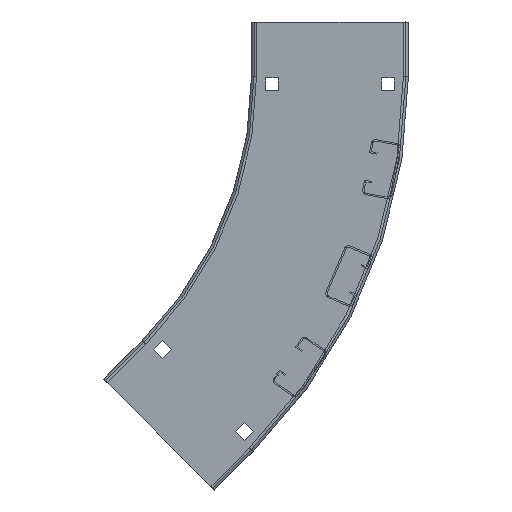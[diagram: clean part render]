
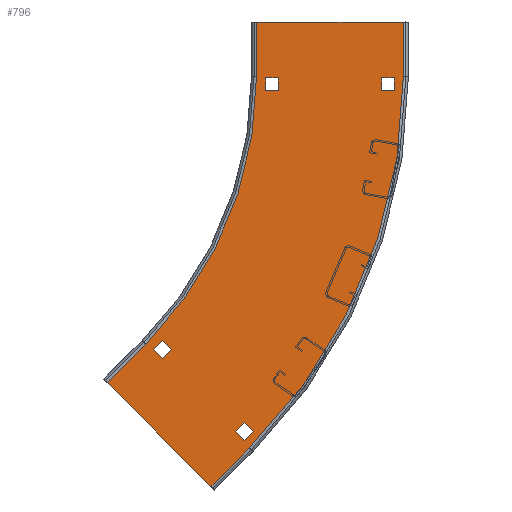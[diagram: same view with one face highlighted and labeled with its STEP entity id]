
A CAD part, left-side view. The second image highlights one B-rep face of the part: STEP entity #796.
In plain terms, the highlighted planar face has unit normal (-1, 0, 0).
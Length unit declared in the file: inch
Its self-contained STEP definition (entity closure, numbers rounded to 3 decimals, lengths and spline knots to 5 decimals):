
#1=DIRECTION('',(0.,-0.707,-0.707));
#2=VECTOR('',#1,4.718);
#3=CARTESIAN_POINT('',(0.,10.69853,13.1734));
#4=LINE('',#3,#2);
#5=DIRECTION('',(0.,1.,0.));
#6=VECTOR('',#5,4.718);
#7=CARTESIAN_POINT('',(0.,12.162,-1.75));
#8=LINE('',#7,#6);
#9=DIRECTION('',(0.,0.,-1.));
#10=VECTOR('',#9,0.41);
#11=CARTESIAN_POINT('',(0.,16.5885,0.455));
#12=LINE('',#11,#10);
#13=DIRECTION('',(0.,-1.,0.));
#14=VECTOR('',#13,0.41);
#15=CARTESIAN_POINT('',(0.,16.5885,0.045));
#16=LINE('',#15,#14);
#17=DIRECTION('',(0.,0.,1.));
#18=VECTOR('',#17,0.41);
#19=CARTESIAN_POINT('',(0.,16.1785,0.045));
#20=LINE('',#19,#18);
#21=DIRECTION('',(0.,1.,0.));
#22=VECTOR('',#21,0.41);
#23=CARTESIAN_POINT('',(0.,16.1785,0.455));
#24=LINE('',#23,#22);
#25=DIRECTION('',(0.,1.,0.));
#26=VECTOR('',#25,0.41);
#27=CARTESIAN_POINT('',(0.,12.4535,0.455));
#28=LINE('',#27,#26);
#29=DIRECTION('',(0.,0.,-1.));
#30=VECTOR('',#29,0.41);
#31=CARTESIAN_POINT('',(0.,12.8635,0.455));
#32=LINE('',#31,#30);
#33=DIRECTION('',(0.,-1.,0.));
#34=VECTOR('',#33,0.41);
#35=CARTESIAN_POINT('',(0.,12.8635,0.045));
#36=LINE('',#35,#34);
#37=DIRECTION('',(0.,0.,1.));
#38=VECTOR('',#37,0.41);
#39=CARTESIAN_POINT('',(0.,12.4535,0.045));
#40=LINE('',#39,#38);
#41=DIRECTION('',(0.,-0.707,-0.707));
#42=VECTOR('',#41,0.41);
#43=CARTESIAN_POINT('',(0.,9.41591,8.77245));
#44=LINE('',#43,#42);
#45=DIRECTION('',(0.,-0.707,0.707));
#46=VECTOR('',#45,0.41);
#47=CARTESIAN_POINT('',(0.,9.126,8.48253));
#48=LINE('',#47,#46);
#49=DIRECTION('',(0.,0.707,0.707));
#50=VECTOR('',#49,0.41);
#51=CARTESIAN_POINT('',(0.,8.83608,8.77245));
#52=LINE('',#51,#50);
#53=DIRECTION('',(0.,0.707,-0.707));
#54=VECTOR('',#53,0.41);
#55=CARTESIAN_POINT('',(0.,9.126,9.06236));
#56=LINE('',#55,#54);
#57=DIRECTION('',(0.,0.707,0.707));
#58=VECTOR('',#57,0.41);
#59=CARTESIAN_POINT('',(0.,11.47044,11.4068));
#60=LINE('',#59,#58);
#61=DIRECTION('',(0.,0.707,-0.707));
#62=VECTOR('',#61,0.41);
#63=CARTESIAN_POINT('',(0.,11.76036,11.69672));
#64=LINE('',#63,#62);
#65=DIRECTION('',(0.,-0.707,-0.707));
#66=VECTOR('',#65,0.41);
#67=CARTESIAN_POINT('',(0.,12.05027,11.4068));
#68=LINE('',#67,#66);
#69=DIRECTION('',(0.,-0.707,0.707));
#70=VECTOR('',#69,0.41);
#71=CARTESIAN_POINT('',(0.,11.76036,11.11689));
#72=LINE('',#71,#70);
#73=DIRECTION('',(0.,0.,1.));
#74=VECTOR('',#73,1.75);
#75=CARTESIAN_POINT('',(0.,16.88,-1.75));
#76=LINE('',#75,#74);
#114=DIRECTION('',(0.,0.,-1.));
#115=VECTOR('',#114,1.75);
#116=CARTESIAN_POINT('',(0.,12.162,0.));
#117=LINE('',#116,#115);
#123=CARTESIAN_POINT('',(0.,0.,0.));
#124=DIRECTION('',(-1.,0.,0.));
#125=DIRECTION('',(0.,0.707,0.707));
#126=AXIS2_PLACEMENT_3D('',#123,#124,#125);
#128=DIRECTION('',(0.,0.707,-0.707));
#129=VECTOR('',#128,1.75);
#130=CARTESIAN_POINT('',(0.,7.3624,9.83727));
#131=LINE('',#130,#129);
#169=DIRECTION('',(0.,-0.707,0.707));
#170=VECTOR('',#169,1.75);
#171=CARTESIAN_POINT('',(0.,11.93596,11.93596));
#172=LINE('',#171,#170);
#178=CARTESIAN_POINT('',(0.,0.,0.));
#179=DIRECTION('',(1.,0.,0.));
#180=DIRECTION('',(0.,1.,0.));
#181=AXIS2_PLACEMENT_3D('',#178,#179,#180);
#573=CARTESIAN_POINT('',(0.,7.3624,9.83727));
#575=VERTEX_POINT('',#573);
#579=CARTESIAN_POINT('',(0.,8.59983,8.59983));
#581=VERTEX_POINT('',#579);
#585=CARTESIAN_POINT('',(0.,12.162,0.));
#587=VERTEX_POINT('',#585);
#591=CARTESIAN_POINT('',(0.,12.162,-1.75));
#593=VERTEX_POINT('',#591);
#621=CARTESIAN_POINT('',(0.,16.88,-1.75));
#622=VERTEX_POINT('',#621);
#623=CARTESIAN_POINT('',(0.,10.69853,13.1734));
#624=VERTEX_POINT('',#623);
#629=CARTESIAN_POINT('',(0.,16.88,0.));
#631=VERTEX_POINT('',#629);
#635=CARTESIAN_POINT('',(0.,11.93596,11.93596));
#637=VERTEX_POINT('',#635);
#669=CARTESIAN_POINT('',(0.,16.5885,0.455));
#670=CARTESIAN_POINT('',(0.,16.5885,0.045));
#671=VERTEX_POINT('',#669);
#672=VERTEX_POINT('',#670);
#673=CARTESIAN_POINT('',(0.,16.1785,0.045));
#674=VERTEX_POINT('',#673);
#675=CARTESIAN_POINT('',(0.,16.1785,0.455));
#676=VERTEX_POINT('',#675);
#677=CARTESIAN_POINT('',(0.,12.4535,0.455));
#678=CARTESIAN_POINT('',(0.,12.8635,0.455));
#679=VERTEX_POINT('',#677);
#680=VERTEX_POINT('',#678);
#681=CARTESIAN_POINT('',(0.,12.8635,0.045));
#682=VERTEX_POINT('',#681);
#683=CARTESIAN_POINT('',(0.,12.4535,0.045));
#684=VERTEX_POINT('',#683);
#701=CARTESIAN_POINT('',(0.,9.41591,8.77245));
#702=CARTESIAN_POINT('',(0.,9.126,8.48253));
#703=VERTEX_POINT('',#701);
#704=VERTEX_POINT('',#702);
#705=CARTESIAN_POINT('',(0.,8.83608,8.77245));
#706=VERTEX_POINT('',#705);
#707=CARTESIAN_POINT('',(0.,9.126,9.06236));
#708=VERTEX_POINT('',#707);
#709=CARTESIAN_POINT('',(0.,11.47044,11.4068));
#710=CARTESIAN_POINT('',(0.,11.76036,11.69672));
#711=VERTEX_POINT('',#709);
#712=VERTEX_POINT('',#710);
#713=CARTESIAN_POINT('',(0.,12.05027,11.4068));
#714=VERTEX_POINT('',#713);
#715=CARTESIAN_POINT('',(0.,11.76036,11.11689));
#716=VERTEX_POINT('',#715);
#733=CARTESIAN_POINT('',(0.,0.,0.));
#734=DIRECTION('',(1.,0.,0.));
#735=DIRECTION('',(0.,0.,-1.));
#736=AXIS2_PLACEMENT_3D('',#733,#734,#735);
#737=PLANE('',#736);
#739=ORIENTED_EDGE('',*,*,#738,.T.);
#741=ORIENTED_EDGE('',*,*,#740,.T.);
#743=ORIENTED_EDGE('',*,*,#742,.T.);
#745=ORIENTED_EDGE('',*,*,#744,.T.);
#747=ORIENTED_EDGE('',*,*,#746,.T.);
#749=ORIENTED_EDGE('',*,*,#748,.T.);
#751=ORIENTED_EDGE('',*,*,#750,.T.);
#753=ORIENTED_EDGE('',*,*,#752,.T.);
#754=EDGE_LOOP('',(#739,#741,#743,#745,#747,#749,#751,#753));
#755=FACE_OUTER_BOUND('',#754,.F.);
#757=ORIENTED_EDGE('',*,*,#756,.T.);
#759=ORIENTED_EDGE('',*,*,#758,.T.);
#761=ORIENTED_EDGE('',*,*,#760,.T.);
#763=ORIENTED_EDGE('',*,*,#762,.T.);
#764=EDGE_LOOP('',(#757,#759,#761,#763));
#765=FACE_BOUND('',#764,.F.);
#767=ORIENTED_EDGE('',*,*,#766,.T.);
#769=ORIENTED_EDGE('',*,*,#768,.T.);
#771=ORIENTED_EDGE('',*,*,#770,.T.);
#773=ORIENTED_EDGE('',*,*,#772,.T.);
#774=EDGE_LOOP('',(#767,#769,#771,#773));
#775=FACE_BOUND('',#774,.F.);
#777=ORIENTED_EDGE('',*,*,#776,.T.);
#779=ORIENTED_EDGE('',*,*,#778,.T.);
#781=ORIENTED_EDGE('',*,*,#780,.T.);
#783=ORIENTED_EDGE('',*,*,#782,.T.);
#784=EDGE_LOOP('',(#777,#779,#781,#783));
#785=FACE_BOUND('',#784,.F.);
#787=ORIENTED_EDGE('',*,*,#786,.T.);
#789=ORIENTED_EDGE('',*,*,#788,.T.);
#791=ORIENTED_EDGE('',*,*,#790,.T.);
#793=ORIENTED_EDGE('',*,*,#792,.T.);
#794=EDGE_LOOP('',(#787,#789,#791,#793));
#795=FACE_BOUND('',#794,.F.);
#796=ADVANCED_FACE('',(#755,#765,#775,#785,#795),#737,.F.);
#127=CIRCLE('',#126,12.162);
#182=CIRCLE('',#181,16.88);
#738=EDGE_CURVE('',#622,#631,#76,.T.);
#740=EDGE_CURVE('',#631,#637,#182,.T.);
#742=EDGE_CURVE('',#637,#624,#172,.T.);
#744=EDGE_CURVE('',#624,#575,#4,.T.);
#746=EDGE_CURVE('',#575,#581,#131,.T.);
#748=EDGE_CURVE('',#581,#587,#127,.T.);
#750=EDGE_CURVE('',#587,#593,#117,.T.);
#752=EDGE_CURVE('',#593,#622,#8,.T.);
#756=EDGE_CURVE('',#671,#672,#12,.T.);
#758=EDGE_CURVE('',#672,#674,#16,.T.);
#760=EDGE_CURVE('',#674,#676,#20,.T.);
#762=EDGE_CURVE('',#676,#671,#24,.T.);
#766=EDGE_CURVE('',#679,#680,#28,.T.);
#768=EDGE_CURVE('',#680,#682,#32,.T.);
#770=EDGE_CURVE('',#682,#684,#36,.T.);
#772=EDGE_CURVE('',#684,#679,#40,.T.);
#776=EDGE_CURVE('',#703,#704,#44,.T.);
#778=EDGE_CURVE('',#704,#706,#48,.T.);
#780=EDGE_CURVE('',#706,#708,#52,.T.);
#782=EDGE_CURVE('',#708,#703,#56,.T.);
#786=EDGE_CURVE('',#711,#712,#60,.T.);
#788=EDGE_CURVE('',#712,#714,#64,.T.);
#790=EDGE_CURVE('',#714,#716,#68,.T.);
#792=EDGE_CURVE('',#716,#711,#72,.T.);
